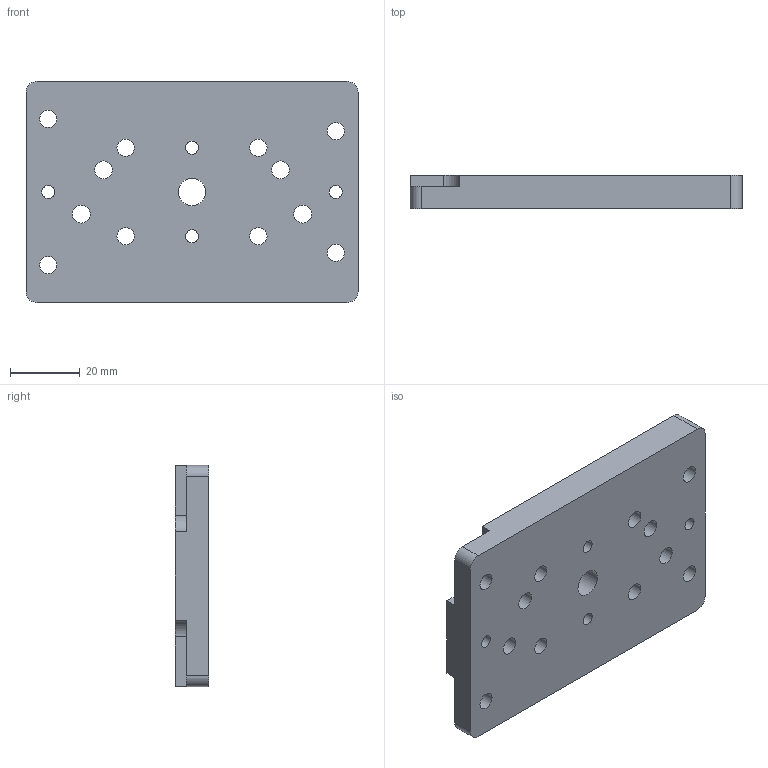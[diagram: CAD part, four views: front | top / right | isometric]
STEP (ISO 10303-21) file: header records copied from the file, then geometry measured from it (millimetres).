
FILE_DESCRIPTION( ( 'Unknown' ), '1' );
FILE_NAME( 'S:/A & P Tool/Start Button Swivel Mount/PDF - STP - IGES master files/AFSB-643-M-DL.stp', 'Unknown', ( 'Unknown' ), ( 'Unknown' ), 'PSStep 16.0.42', 'Unknown', ' ' );
FILE_SCHEMA( ( 'AUTOMOTIVE_DESIGN { 1 0 10303 214 1 1 1 1 }' ) );
Length unit declared in the file: millimetre
Products named in the file (1): 1
Bounding box: 95.25 x 9.53 x 63.5 mm (x, y, z)
Volume: 52554.9 mm3; surface area: 16856.6 mm2
Topology: 1 solids, 1 shells, 39 faces, 114 edges, 79 vertices
Faces by surface type: cylinder 25, plane 14
Full cylindrical faces by diameter (mm): 3.68 x4, 4.928 x4, 4.976 x4, 5.105 x4, 7.925 x1, 8.026 x2
Entity records: 1550 total; most frequent: DIRECTION 216, CARTESIAN_POINT 196, ORIENTED_EDGE 172, EDGE_LOOP 94, AXIS2_PLACEMENT_3D 90, EDGE_CURVE 86, VERTEX_POINT 70, FACE_OUTER_BOUND 58
